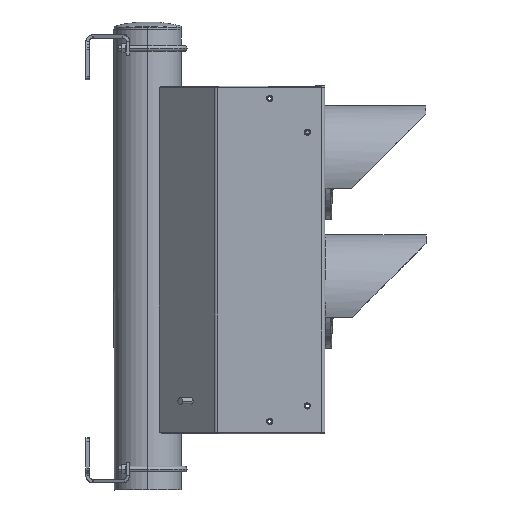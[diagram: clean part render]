
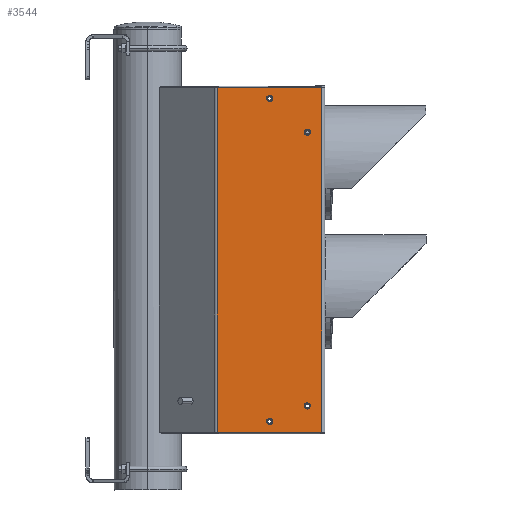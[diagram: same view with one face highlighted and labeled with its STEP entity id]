
A CAD part, left-side view. The second image highlights one B-rep face of the part: STEP entity #3544.
In plain terms, the highlighted planar face has unit normal (-1, 0, 0).
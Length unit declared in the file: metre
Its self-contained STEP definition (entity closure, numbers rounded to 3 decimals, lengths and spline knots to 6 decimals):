
#3544=ADVANCED_FACE('0:60033',(#7273,#7274,#7275,#7276,#7277),#7278,.F.);
#7273=FACE_OUTER_BOUND('',#18494,.T.);
#7274=FACE_BOUND('',#18495,.T.);
#7275=FACE_BOUND('',#18496,.T.);
#7276=FACE_BOUND('',#18497,.T.);
#7277=FACE_BOUND('',#18498,.T.);
#7278=PLANE('',#18499);
#18494=EDGE_LOOP('',(#31556,#31557,#31558,#31559));
#18495=EDGE_LOOP('',(#31560,#31561));
#18496=EDGE_LOOP('',(#31562,#31563));
#18497=EDGE_LOOP('',(#31564,#31565));
#18498=EDGE_LOOP('',(#31566,#31567));
#18499=AXIS2_PLACEMENT_3D('',#31568,#31569,#31570);
#31556=ORIENTED_EDGE('',*,*,#43530,.F.);
#31557=ORIENTED_EDGE('',*,*,#43508,.F.);
#31558=ORIENTED_EDGE('',*,*,#43551,.F.);
#31559=ORIENTED_EDGE('',*,*,#43552,.T.);
#31560=ORIENTED_EDGE('',*,*,#43494,.T.);
#31561=ORIENTED_EDGE('',*,*,#43405,.T.);
#31562=ORIENTED_EDGE('',*,*,#43488,.T.);
#31563=ORIENTED_EDGE('',*,*,#43417,.T.);
#31564=ORIENTED_EDGE('',*,*,#43478,.T.);
#31565=ORIENTED_EDGE('',*,*,#43437,.T.);
#31566=ORIENTED_EDGE('',*,*,#43480,.T.);
#31567=ORIENTED_EDGE('',*,*,#43433,.T.);
#31568=CARTESIAN_POINT('',(-0.079534,-0.0925,-0.004572));
#31569=DIRECTION('',(1.0,0.,0.));
#31570=DIRECTION('',(0.,-1.0,0.0));
#43405=EDGE_CURVE('0:60216',#51019,#51023,#51025,.F.);
#43417=EDGE_CURVE('0:60198',#51043,#51047,#51049,.T.);
#43433=EDGE_CURVE('0:60174',#51075,#51079,#51081,.T.);
#43437=EDGE_CURVE('0:60168',#51083,#51087,#51089,.T.);
#43478=EDGE_CURVE('0:60168',#51087,#51083,#51162,.T.);
#43480=EDGE_CURVE('0:60174',#51079,#51075,#51164,.T.);
#43488=EDGE_CURVE('0:60198',#51047,#51043,#51172,.T.);
#43494=EDGE_CURVE('0:60216',#51023,#51019,#51178,.F.);
#43508=EDGE_CURVE('0:60258',#51203,#51205,#51206,.T.);
#43530=EDGE_CURVE('0:60324',#51205,#51242,#51243,.F.);
#43551=EDGE_CURVE('0:60387',#51273,#51203,#51275,.F.);
#43552=EDGE_CURVE('0:60390',#51273,#51242,#51276,.T.);
#51019=VERTEX_POINT('',#63970);
#51023=VERTEX_POINT('',#63975);
#51025=CIRCLE('',#63978,0.00275);
#51043=VERTEX_POINT('',#64000);
#51047=VERTEX_POINT('',#64005);
#51049=CIRCLE('',#64008,0.00275);
#51075=VERTEX_POINT('',#64040);
#51079=VERTEX_POINT('',#64045);
#51081=CIRCLE('',#64048,0.00275);
#51083=VERTEX_POINT('',#64050);
#51087=VERTEX_POINT('',#64055);
#51089=CIRCLE('',#64058,0.00275);
#51162=CIRCLE('',#64147,0.00275);
#51164=CIRCLE('',#64149,0.00275);
#51172=CIRCLE('',#64157,0.00275);
#51178=CIRCLE('',#64163,0.00275);
#51203=VERTEX_POINT('',#64195);
#51205=VERTEX_POINT('',#64197);
#51206=LINE('',#64198,#64199);
#51242=VERTEX_POINT('',#64250);
#51243=LINE('',#64251,#64252);
#51273=VERTEX_POINT('',#64297);
#51275=LINE('',#64299,#64300);
#51276=LINE('',#64301,#64302);
#63970=CARTESIAN_POINT('',(-0.079534,-0.042429,-0.167391));
#63975=CARTESIAN_POINT('',(-0.079534,-0.047929,-0.167391));
#63978=AXIS2_PLACEMENT_3D('',#77175,#77176,#77177);
#64000=CARTESIAN_POINT('',(-0.079534,-0.042477,0.120425));
#64005=CARTESIAN_POINT('',(-0.079534,-0.047977,0.120425));
#64008=AXIS2_PLACEMENT_3D('',#77199,#77200,#77201);
#64040=CARTESIAN_POINT('',(-0.079534,-0.076078,0.090334));
#64045=CARTESIAN_POINT('',(-0.079534,-0.081578,0.090334));
#64048=AXIS2_PLACEMENT_3D('',#77231,#77232,#77233);
#64050=CARTESIAN_POINT('',(-0.079534,-0.075952,-0.153608));
#64055=CARTESIAN_POINT('',(-0.079534,-0.081452,-0.153608));
#64058=AXIS2_PLACEMENT_3D('',#77239,#77240,#77241);
#64147=AXIS2_PLACEMENT_3D('',#77330,#77331,#77332);
#64149=AXIS2_PLACEMENT_3D('',#77336,#77337,#77338);
#64157=AXIS2_PLACEMENT_3D('',#77360,#77361,#77362);
#64163=AXIS2_PLACEMENT_3D('',#77378,#77379,#77380);
#64195=CARTESIAN_POINT('',(-0.079534,-0.0915,-0.17696));
#64197=CARTESIAN_POINT('',(-0.079534,0.001487,-0.17696));
#64198=CARTESIAN_POINT('',(-0.079534,-0.092737,-0.17696));
#64199=VECTOR('',#77406,1.0);
#64250=CARTESIAN_POINT('',(-0.079534,0.001487,0.13));
#64251=CARTESIAN_POINT('',(-0.079534,0.001487,-0.090861));
#64252=VECTOR('',#77440,1.0);
#64297=CARTESIAN_POINT('',(-0.079534,-0.0915,0.13));
#64299=CARTESIAN_POINT('',(-0.079534,-0.0915,0.062714));
#64300=VECTOR('',#77471,1.0);
#64301=CARTESIAN_POINT('',(-0.079534,-0.092737,0.13));
#64302=VECTOR('',#77472,1.0);
#77175=CARTESIAN_POINT('',(-0.079534,-0.045179,-0.167391));
#77176=DIRECTION('',(-1.0,0.,0.));
#77177=DIRECTION('',(0.,1.0,0.));
#77199=CARTESIAN_POINT('',(-0.079534,-0.045227,0.120425));
#77200=DIRECTION('',(1.0,0.,0.));
#77201=DIRECTION('',(0.,1.0,0.0));
#77231=CARTESIAN_POINT('',(-0.079534,-0.078828,0.090334));
#77232=DIRECTION('',(1.0,0.,0.));
#77233=DIRECTION('',(0.,1.0,0.));
#77239=CARTESIAN_POINT('',(-0.079534,-0.078702,-0.153608));
#77240=DIRECTION('',(1.0,0.,0.));
#77241=DIRECTION('',(0.,1.0,0.));
#77330=CARTESIAN_POINT('',(-0.079534,-0.078702,-0.153608));
#77331=DIRECTION('',(1.0,0.,0.));
#77332=DIRECTION('',(0.,1.0,0.));
#77336=CARTESIAN_POINT('',(-0.079534,-0.078828,0.090334));
#77337=DIRECTION('',(1.0,0.,0.));
#77338=DIRECTION('',(0.,1.0,0.));
#77360=CARTESIAN_POINT('',(-0.079534,-0.045227,0.120425));
#77361=DIRECTION('',(1.0,0.,0.));
#77362=DIRECTION('',(0.,1.0,0.0));
#77378=CARTESIAN_POINT('',(-0.079534,-0.045179,-0.167391));
#77379=DIRECTION('',(-1.0,0.,0.));
#77380=DIRECTION('',(0.,1.0,0.));
#77406=DIRECTION('',(0.,1.0,0.));
#77440=DIRECTION('',(0.,0.,-1.0));
#77471=DIRECTION('',(0.,0.0,1.0));
#77472=DIRECTION('',(0.,1.0,0.0));
